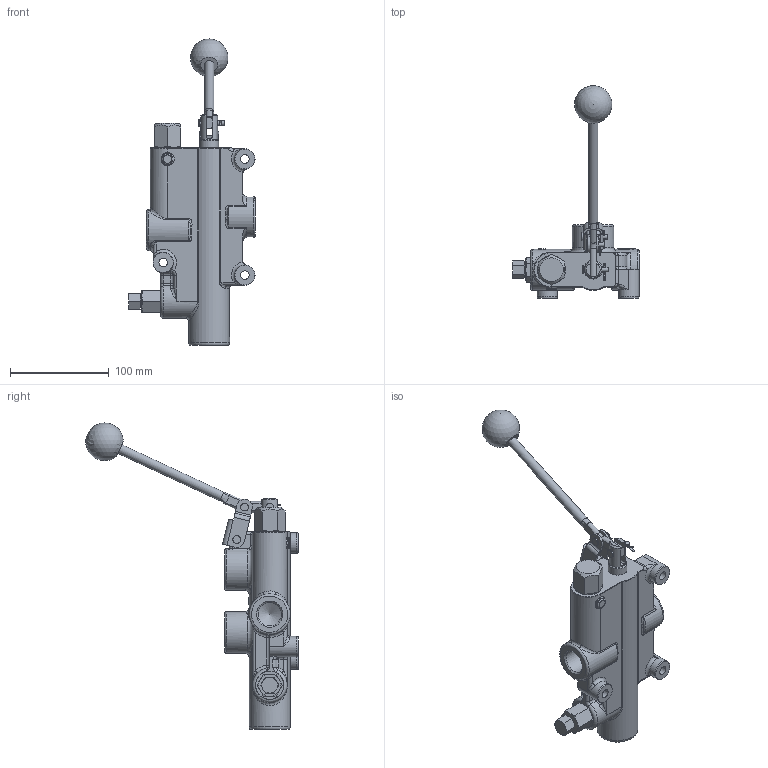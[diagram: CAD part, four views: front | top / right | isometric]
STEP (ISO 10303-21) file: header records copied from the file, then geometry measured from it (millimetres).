
FILE_DESCRIPTION((''),'2;1');
FILE_NAME('C:\Vault\Workspace\z_ShellModels\LV_LS30_RD25_RD41\LS-3000-1_Shell.stp','2012-03-19T10:11:32',('PetersW'),(''),'Autodesk Inventor 2012','Autodesk Inventor 2012','');
FILE_SCHEMA(('AUTOMOTIVE_DESIGN { 1 0 10303 214 1 1 1 1 }'));
Length unit declared in the file: inch
Products named in the file (1): Part3
Bounding box: 128.4 x 214.67 x 309.7 mm (x, y, z)
Volume: 680507.8 mm3; surface area: 101721.1 mm2
Topology: 9 solids, 10 shells, 565 faces, 1403 edges, 865 vertices
Faces by surface type: plane 197, cylinder 175, bspline 95, torus 51, cone 41, sphere 6
Full cylindrical faces by diameter (mm): 2.381 x3, 4.661 x3, 4.801 x2, 4.813 x3, 4.826 x4, 4.978 x1, 7.925 x3, 8.712 x3, 9.398 x1, 9.525 x1, 10.947 x1, 11.1 x1, 12.319 x1, 14.275 x1, 17.018 x1, 17.856 x2, 19.063 x1, 20.625 x3, 23.393 x2, 28.575 x3, 31.75 x2, 33.782 x1, 41.275 x2, 42.062 x2
Entity records: 32827 total; most frequent: CARTESIAN_POINT 19923, ORIENTED_EDGE 2542, DIRECTION 2392, EDGE_CURVE 1271, AXIS2_PLACEMENT_3D 939, VERTEX_POINT 826, EDGE_LOOP 701, STYLED_ITEM 574
